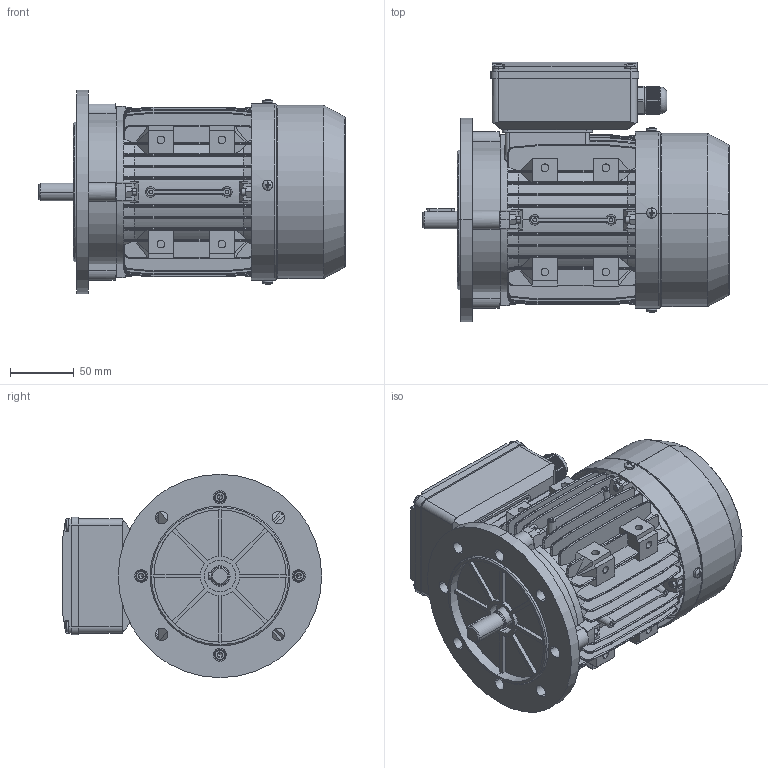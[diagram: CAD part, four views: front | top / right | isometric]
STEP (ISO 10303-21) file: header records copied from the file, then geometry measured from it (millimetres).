
FILE_DESCRIPTION (( 'STEP AP214' ), '1' );
FILE_NAME ('BMM0037.07C405.11.step', '2020-04-23T12:47:07', ( '' ), ( '' ), 'SwSTEP 2.0', 'SolidWorks 2019', '' );
FILE_SCHEMA (( 'AUTOMOTIVE_DESIGN' ));
Length unit declared in the file: millimetre
Products named in the file (1): BMM0037.07C405.11
Bounding box: 241 x 204 x 160 mm (x, y, z)
Volume: 728021.1 mm3; surface area: 507837.3 mm2
Topology: 33 solids, 33 shells, 3288 faces, 8587 edges, 5363 vertices
Faces by surface type: plane 1751, cylinder 946, cone 217, bspline 142, sphere 118, torus 114
Entity records: 115756 total; most frequent: CARTESIAN_POINT 36586, ORIENTED_EDGE 17010, DIRECTION 15624, EDGE_CURVE 8505, AXIS2_PLACEMENT_3D 5385, VERTEX_POINT 5363, LINE 4854, VECTOR 4854
